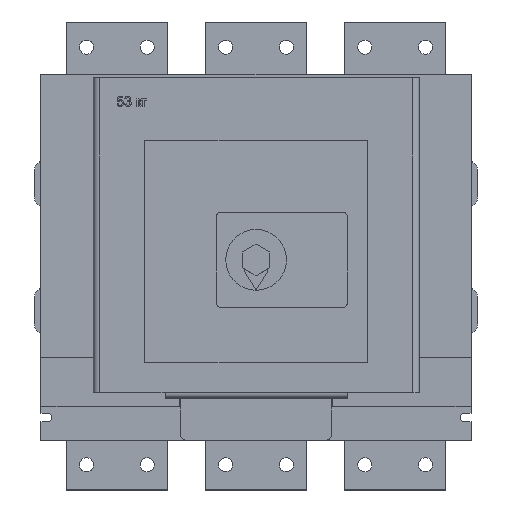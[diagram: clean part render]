
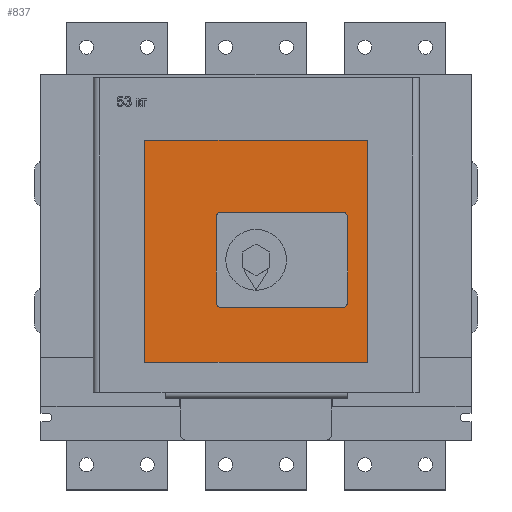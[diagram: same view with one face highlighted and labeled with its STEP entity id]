
A CAD part, top view. The second image highlights one B-rep face of the part: STEP entity #837.
In plain terms, the highlighted planar face has unit normal (0, 0, 1).
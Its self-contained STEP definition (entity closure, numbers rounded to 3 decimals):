
#122 = CARTESIAN_POINT ( 'NONE',  ( 173.1, 220., 266.8 ) ) ;
#143 = CARTESIAN_POINT ( 'NONE',  ( 322.6, 77., 266.8 ) ) ;
#178 = VECTOR ( 'NONE', #2256, 1000. ) ;
#312 = VERTEX_POINT ( 'NONE', #8985 ) ;
#334 = DIRECTION ( 'NONE',  ( 1., 0., 0. ) ) ;
#437 = LINE ( 'NONE', #4997, #4002 ) ;
#570 = CARTESIAN_POINT ( 'NONE',  ( 102.6, 77., 266.8 ) ) ;
#621 = EDGE_CURVE ( 'NONE', #7790, #1403, #841, .T. ) ;
#754 = CARTESIAN_POINT ( 'NONE',  ( 178.1, 131., 266.8 ) ) ;
#760 = LINE ( 'NONE', #7128, #2407 ) ;
#837 = ADVANCED_FACE ( 'NONE', ( #6632, #7094 ), #3336, .T. ) ;
#841 = CIRCLE ( 'NONE', #6799, 5. ) ;
#868 = LINE ( 'NONE', #143, #6557 ) ;
#1014 = ORIENTED_EDGE ( 'NONE', *, *, #5237, .T. ) ;
#1069 = CARTESIAN_POINT ( 'NONE',  ( 322.6, 77., 266.8 ) ) ;
#1105 = AXIS2_PLACEMENT_3D ( 'NONE', #4021, #8299, #6996 ) ;
#1214 = DIRECTION ( 'NONE',  ( 0., 0., 1. ) ) ;
#1403 = VERTEX_POINT ( 'NONE', #3664 ) ;
#1492 = AXIS2_PLACEMENT_3D ( 'NONE', #6870, #2568, #7590 ) ;
#1501 = CARTESIAN_POINT ( 'NONE',  ( 303.1, 220., 266.8 ) ) ;
#1692 = EDGE_CURVE ( 'NONE', #2078, #7790, #437, .T. ) ;
#1706 = CARTESIAN_POINT ( 'NONE',  ( 178.1, 225., 266.8 ) ) ;
#1864 = CARTESIAN_POINT ( 'NONE',  ( 322.6, 296., 266.8 ) ) ;
#1937 = CARTESIAN_POINT ( 'NONE',  ( 102.6, 77., 266.8 ) ) ;
#2069 = DIRECTION ( 'NONE',  ( 0., 1., 0. ) ) ;
#2078 = VERTEX_POINT ( 'NONE', #6775 ) ;
#2256 = DIRECTION ( 'NONE',  ( 0., -1., 0. ) ) ;
#2407 = VECTOR ( 'NONE', #5699, 1000. ) ;
#2422 = ORIENTED_EDGE ( 'NONE', *, *, #5831, .T. ) ;
#2458 = DIRECTION ( 'NONE',  ( 1., 0., 0. ) ) ;
#2568 = DIRECTION ( 'NONE',  ( 0., 0., 1. ) ) ;
#2736 = VERTEX_POINT ( 'NONE', #570 ) ;
#2903 = LINE ( 'NONE', #4371, #6496 ) ;
#3336 = PLANE ( 'NONE',  #5201 ) ;
#3469 = AXIS2_PLACEMENT_3D ( 'NONE', #4150, #4766, #334 ) ;
#3660 = CIRCLE ( 'NONE', #3469, 5. ) ;
#3664 = CARTESIAN_POINT ( 'NONE',  ( 173.1, 220., 266.8 ) ) ;
#3776 = VERTEX_POINT ( 'NONE', #7303 ) ;
#3867 = EDGE_LOOP ( 'NONE', ( #9157, #8787, #6814, #5677, #6781, #5921, #7063, #4533 ) ) ;
#3920 = DIRECTION ( 'NONE',  ( 0., 0., 1. ) ) ;
#4002 = VECTOR ( 'NONE', #5469, 1000. ) ;
#4021 = CARTESIAN_POINT ( 'NONE',  ( 298.1, 220., 266.8 ) ) ;
#4027 = EDGE_CURVE ( 'NONE', #4232, #2736, #8074, .T. ) ;
#4058 = CARTESIAN_POINT ( 'NONE',  ( 0., 0., 266.8 ) ) ;
#4112 = DIRECTION ( 'NONE',  ( 0., -1., 0. ) ) ;
#4150 = CARTESIAN_POINT ( 'NONE',  ( 298.1, 136., 266.8 ) ) ;
#4207 = VECTOR ( 'NONE', #5132, 1000. ) ;
#4232 = VERTEX_POINT ( 'NONE', #6789 ) ;
#4239 = LINE ( 'NONE', #1069, #6135 ) ;
#4371 = CARTESIAN_POINT ( 'NONE',  ( 322.6, 296., 266.8 ) ) ;
#4533 = ORIENTED_EDGE ( 'NONE', *, *, #1692, .F. ) ;
#4569 = VERTEX_POINT ( 'NONE', #754 ) ;
#4766 = DIRECTION ( 'NONE',  ( 0., 0., 1. ) ) ;
#4831 = CARTESIAN_POINT ( 'NONE',  ( 303.1, 136., 266.8 ) ) ;
#4847 = LINE ( 'NONE', #122, #178 ) ;
#4997 = CARTESIAN_POINT ( 'NONE',  ( 298.1, 225., 266.8 ) ) ;
#5132 = DIRECTION ( 'NONE',  ( 1., 0., 0. ) ) ;
#5201 = AXIS2_PLACEMENT_3D ( 'NONE', #4058, #1214, #7618 ) ;
#5237 = EDGE_CURVE ( 'NONE', #9107, #4232, #2903, .T. ) ;
#5469 = DIRECTION ( 'NONE',  ( -1., 0., 0. ) ) ;
#5496 = CARTESIAN_POINT ( 'NONE',  ( 322.6, 77., 266.8 ) ) ;
#5677 = ORIENTED_EDGE ( 'NONE', *, *, #6848, .F. ) ;
#5699 = DIRECTION ( 'NONE',  ( 0., 1., 0. ) ) ;
#5831 = EDGE_CURVE ( 'NONE', #8457, #9107, #4239, .T. ) ;
#5921 = ORIENTED_EDGE ( 'NONE', *, *, #8069, .F. ) ;
#6135 = VECTOR ( 'NONE', #2069, 1000. ) ;
#6158 = VECTOR ( 'NONE', #4112, 1000. ) ;
#6463 = CARTESIAN_POINT ( 'NONE',  ( 178.1, 131., 266.8 ) ) ;
#6496 = VECTOR ( 'NONE', #7889, 1000. ) ;
#6557 = VECTOR ( 'NONE', #7252, 1000. ) ;
#6632 = FACE_BOUND ( 'NONE', #3867, .T. ) ;
#6775 = CARTESIAN_POINT ( 'NONE',  ( 298.1, 225., 266.8 ) ) ;
#6781 = ORIENTED_EDGE ( 'NONE', *, *, #7951, .F. ) ;
#6789 = CARTESIAN_POINT ( 'NONE',  ( 102.6, 296., 266.8 ) ) ;
#6799 = AXIS2_PLACEMENT_3D ( 'NONE', #8859, #3920, #2458 ) ;
#6814 = ORIENTED_EDGE ( 'NONE', *, *, #7217, .F. ) ;
#6836 = EDGE_CURVE ( 'NONE', #2736, #8457, #868, .T. ) ;
#6848 = EDGE_CURVE ( 'NONE', #4569, #3776, #8023, .T. ) ;
#6870 = CARTESIAN_POINT ( 'NONE',  ( 178.1, 136., 266.8 ) ) ;
#6963 = EDGE_CURVE ( 'NONE', #8914, #2078, #9014, .T. ) ;
#6996 = DIRECTION ( 'NONE',  ( 1., 0., 0. ) ) ;
#7063 = ORIENTED_EDGE ( 'NONE', *, *, #621, .F. ) ;
#7092 = EDGE_CURVE ( 'NONE', #8506, #8914, #760, .T. ) ;
#7094 = FACE_OUTER_BOUND ( 'NONE', #7557, .T. ) ;
#7128 = CARTESIAN_POINT ( 'NONE',  ( 303.1, 136., 266.8 ) ) ;
#7217 = EDGE_CURVE ( 'NONE', #3776, #8506, #3660, .T. ) ;
#7252 = DIRECTION ( 'NONE',  ( 1., 0., 0. ) ) ;
#7303 = CARTESIAN_POINT ( 'NONE',  ( 298.1, 131., 266.8 ) ) ;
#7421 = CIRCLE ( 'NONE', #1492, 5. ) ;
#7557 = EDGE_LOOP ( 'NONE', ( #2422, #1014, #8840, #7596 ) ) ;
#7590 = DIRECTION ( 'NONE',  ( 1., 0., 0. ) ) ;
#7596 = ORIENTED_EDGE ( 'NONE', *, *, #6836, .T. ) ;
#7618 = DIRECTION ( 'NONE',  ( 1., 0., 0. ) ) ;
#7790 = VERTEX_POINT ( 'NONE', #1706 ) ;
#7889 = DIRECTION ( 'NONE',  ( -1., 0., 0. ) ) ;
#7951 = EDGE_CURVE ( 'NONE', #312, #4569, #7421, .T. ) ;
#8023 = LINE ( 'NONE', #6463, #4207 ) ;
#8069 = EDGE_CURVE ( 'NONE', #1403, #312, #4847, .T. ) ;
#8074 = LINE ( 'NONE', #1937, #6158 ) ;
#8299 = DIRECTION ( 'NONE',  ( 0., 0., 1. ) ) ;
#8457 = VERTEX_POINT ( 'NONE', #5496 ) ;
#8506 = VERTEX_POINT ( 'NONE', #4831 ) ;
#8787 = ORIENTED_EDGE ( 'NONE', *, *, #7092, .F. ) ;
#8840 = ORIENTED_EDGE ( 'NONE', *, *, #4027, .T. ) ;
#8859 = CARTESIAN_POINT ( 'NONE',  ( 178.1, 220., 266.8 ) ) ;
#8914 = VERTEX_POINT ( 'NONE', #1501 ) ;
#8985 = CARTESIAN_POINT ( 'NONE',  ( 173.1, 136., 266.8 ) ) ;
#9014 = CIRCLE ( 'NONE', #1105, 5. ) ;
#9107 = VERTEX_POINT ( 'NONE', #1864 ) ;
#9157 = ORIENTED_EDGE ( 'NONE', *, *, #6963, .F. ) ;
